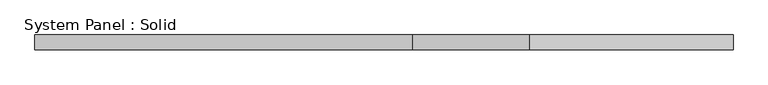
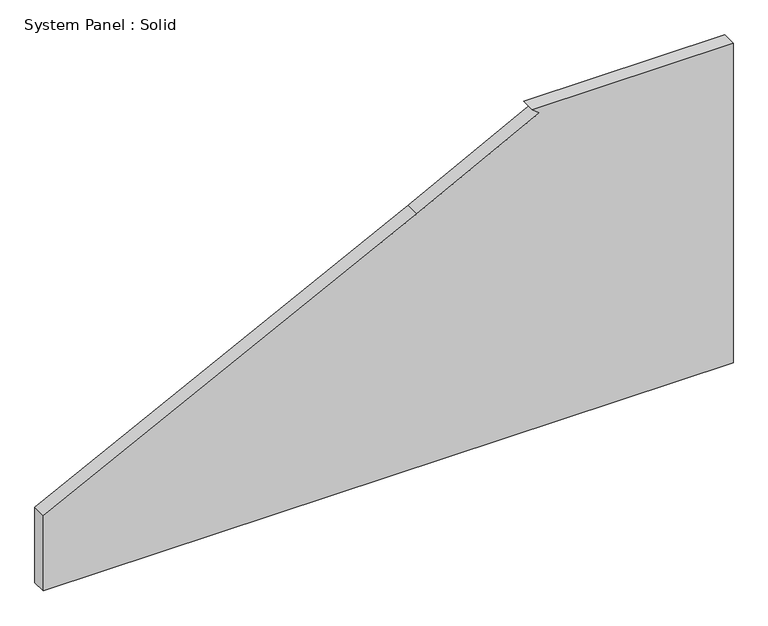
"""IFC4 building model written with IfcOpenShell, lengths in millimetres: plate geometry, System Panel : Solid."""

from ifc_helpers import new_model, si_unit, frame, origin, place, context, project, spatial, polyline, outline, extrude, source, transform, mapped, element, save


def system_panel_solid_98b8eca1(model_context):
    return source(origin(), model_context, "Body", "SweptSolid", [
        extrude(outline(polyline([(0.0, -1492.25), (0.0, 1492.25), (1460.5, 1492.25), (1460.5, 623.8416213), (1435.945044, 653.2014907), (1159.6502025, 123.3364322), (343.5304985, -1492.25), (0.0, -1492.25)])), frame((0.0, -19.05, 0.0), z_axis=(0.0, 1.0, 0.0), x_axis=(0.0, 0.0, 1.0)), (0.0, 0.0, 1.0), 63.5),
    ])


if __name__ == "__main__":
    model = new_model("IFC4")
    model_context = context("Model", 3, world=origin())
    ifc_project = project(units=[si_unit("LENGTHUNIT", "METRE", prefix="MILLI")], contexts=[model_context])
    site = spatial("IfcSite", under=ifc_project)
    building = spatial("IfcBuilding", under=site)
    placement = place(None, origin())
    system_panel_solid_shape = system_panel_solid_98b8eca1(model_context)
    element("IfcPlate", 1, ObjectType="System Panel : Solid", at=placement, inside=building, context=model_context, shape_type="MappedRepresentation", body=[
        mapped(system_panel_solid_shape, transform((0.0, 0.0, 0.0), x_axis=(1.0, 0.0, 0.0), y_axis=(0.0, 1.0, 0.0), z_axis=(0.0, 0.0, 1.0))),
    ])
    save(model, "model.ifc")
